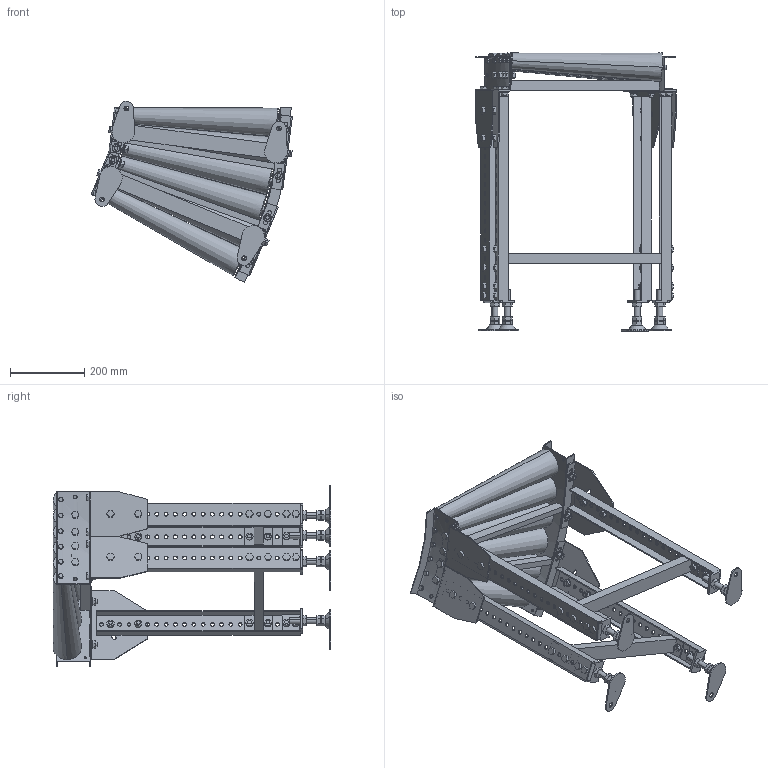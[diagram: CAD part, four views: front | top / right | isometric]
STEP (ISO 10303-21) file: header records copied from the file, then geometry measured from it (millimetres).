
FILE_DESCRIPTION (( 'STEP AP214' ), '1' );
FILE_NAME ('MRT-C5-400-50-30.STEP', '2022-09-27T09:15:55', ( '' ), ( '' ), 'SwSTEP 2.0', 'SolidWorks 2017', '' );
FILE_SCHEMA (( 'AUTOMOTIVE_DESIGN' ));
Length unit declared in the file: millimetre
Products named in the file (1): MRT-C5-400-50-30
Bounding box: 542.2 x 750 x 489.18 mm (x, y, z)
Volume: 10203319.5 mm3; surface area: 1705434.4 mm2
Topology: 19 solids, 41 shells, 1979 faces, 4730 edges, 2972 vertices
Faces by surface type: plane 1453, cylinder 506, cone 20
Entity records: 81801 total; most frequent: CARTESIAN_POINT 12570, DIRECTION 10106, ORIENTED_EDGE 9460, EDGE_CURVE 4730, AXIS2_PLACEMENT_3D 3496, VECTOR 3114, LINE 3114, VERTEX_POINT 2972
